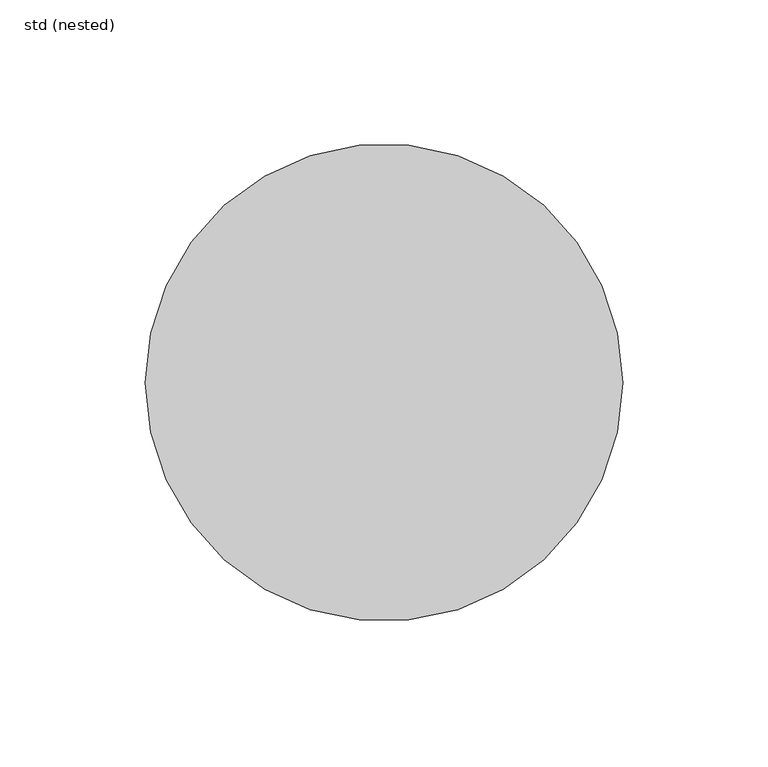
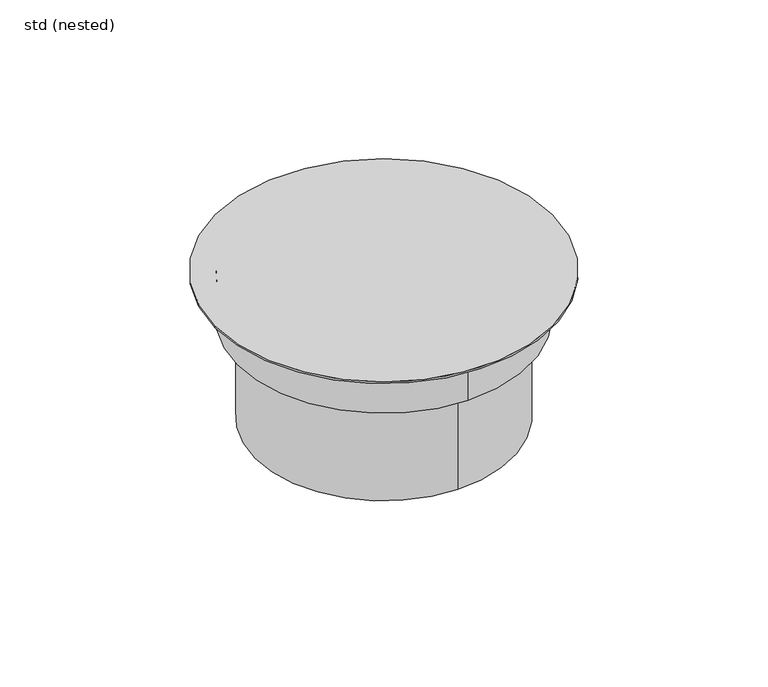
"""IFC4 building model written with IfcOpenShell, lengths in millimetres: sanitary terminal geometry, ZZZ_do not use_PF_ST_UN_raising piece telescopic hygienic gully_ACO : std (nested)."""

from ifc_helpers import new_model, si_unit, point, frame, origin, origin_with_axes, origin_2d, place, context, project, spatial, circle_curve, trimmed, segment, composite_curve, outline, extrude, source, transform, mapped, element, save
from ifc_brep_helpers import plane_surface, cylinder_surface, advanced_brep


def std_nested_406fe5f1(model_context):
    return source(origin(), model_context, "Body", "SolidModel", [
        extrude(outline(composite_curve([segment(trimmed(circle_curve(origin_2d(), 62.5), [point((0.0, -62.5))], [point((0.0, 62.5))], False, "CARTESIAN"), True, "CONTINUOUS"), segment(trimmed(circle_curve(origin_2d(), 62.5), [point((0.0, 62.5))], [point((0.0, -62.5))], False, "CARTESIAN"), True, "CONTINUOUS")], self_intersect=False)), frame((0.0, 0.0, -75.0), z_axis=(0.0, 0.0, 1.0), x_axis=(1.0, 0.0, 0.0)), (0.0, 0.0, 1.0), 51.0),
        advanced_brep(
        [(0.0, -71.0, -24.0), (0.0, 71.0, -24.0), (-82.0, 0.0, 0.0), (82.0, 0.0, 0.0), (0.0, -71.0, -1.0), (0.0, 71.0, -1.0), (-82.0, 0.0, -1.0), (82.0, 0.0, -1.0)],
        [
            (0, 1, circle_curve(frame((0.0, 0.0, -24.0), z_axis=(0.0, 0.0, -1.0), x_axis=(0.0, 1.0, 0.0)), 71.0)),
            (1, 0, circle_curve(frame((0.0, 0.0, -24.0), z_axis=(0.0, 0.0, -1.0), x_axis=(0.0, 1.0, 0.0)), 71.0)),
            (2, 3, circle_curve(origin_with_axes(), 82.0)),
            (3, 2, circle_curve(origin_with_axes(), 82.0)),
            (0, 4),
            (4, 5, circle_curve(frame((0.0, 0.0, -1.0), z_axis=(0.0, 0.0, -1.0), x_axis=(0.0, 1.0, 0.0)), 71.0)),
            (5, 1),
            (5, 4, circle_curve(frame((0.0, 0.0, -1.0), z_axis=(0.0, 0.0, -1.0), x_axis=(0.0, 1.0, 0.0)), 71.0)),
            (6, 7, circle_curve(frame((0.0, 0.0, -1.0), z_axis=(0.0, 0.0, -1.0), x_axis=(1.0, 0.0, 0.0)), 82.0)),
            (7, 6, circle_curve(frame((0.0, 0.0, -1.0), z_axis=(0.0, 0.0, -1.0), x_axis=(1.0, 0.0, 0.0)), 82.0)),
            (7, 3),
            (2, 6),
        ],
        [
            plane_surface(frame((0.0, 71.0, -24.0), z_axis=(0.0, 0.0, -1.0), x_axis=(1.0, 0.0, 0.0))),
            plane_surface(frame((0.0, 71.0, 0.0), z_axis=(0.0, 0.0, 1.0), x_axis=(-1.0, 0.0, 0.0))),
            cylinder_surface(frame((0.0, 0.0, 0.0), z_axis=(0.0, 0.0, -1.0), x_axis=(0.0, 1.0, 0.0)), 71.0),
            plane_surface(frame((82.0, 0.0, -1.0), z_axis=(0.0, 0.0, -1.0), x_axis=(0.0, -1.0, 0.0))),
            cylinder_surface(frame((0.0, 0.0, -1.0), z_axis=(0.0, 0.0, 1.0), x_axis=(1.0, 0.0, 0.0)), 82.0),
        ],
        [
            (0, [[1, 2]]),
            (1, [[3, 4]]),
            (2, [[-1, 5, 6, 7]]),
            (2, [[-2, -7, 8, -5]]),
            (3, [[9, 10], [-6, -8]]),
            (4, [[-10, 11, -3, 12]]),
            (4, [[-9, -12, -4, -11]]),
        ],
    ),
    ])


if __name__ == "__main__":
    model = new_model("IFC4")
    model_context = context("Model", 3, world=origin())
    ifc_project = project(units=[si_unit("LENGTHUNIT", "METRE", prefix="MILLI")], contexts=[model_context])
    site = spatial("IfcSite", under=ifc_project)
    building = spatial("IfcBuilding", under=site)
    placement = place(None, origin())
    std_nested_shape = std_nested_406fe5f1(model_context)
    element("IfcSanitaryTerminal", 1, ObjectType="ZZZ_do not use_PF_ST_UN_raising piece telescopic hygienic gully_ACO : std (nested)", at=placement, inside=building, context=model_context, shape_type="MappedRepresentation", body=[
        mapped(std_nested_shape, transform((0.0, 0.0, 0.0), x_axis=(1.0, 0.0, 0.0), y_axis=(0.0, 1.0, 0.0), z_axis=(0.0, 0.0, 1.0))),
    ])
    save(model, "model.ifc")
